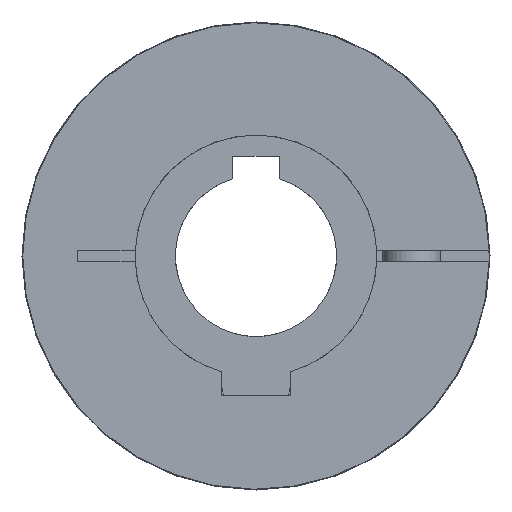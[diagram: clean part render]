
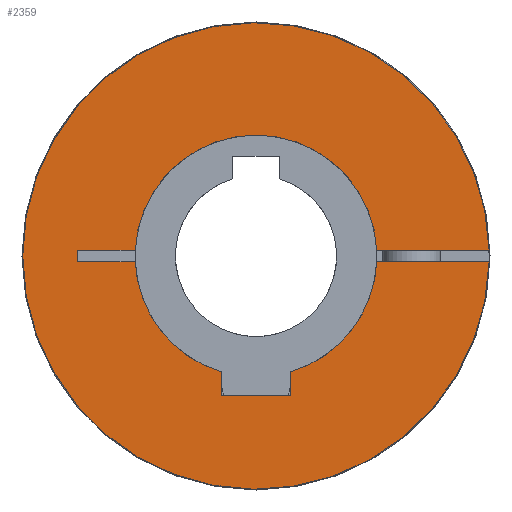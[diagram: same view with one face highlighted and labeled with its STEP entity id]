
A CAD part, left-side view. The second image highlights one B-rep face of the part: STEP entity #2359.
In plain terms, the highlighted planar face has unit normal (-1, 0, 0).
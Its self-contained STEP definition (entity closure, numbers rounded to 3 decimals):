
#233=FACE_OUTER_BOUND('',#375,.T.);
#375=EDGE_LOOP('',(#1918,#1919,#1920,#1921,#1922,#1923,#1924,#1925,#1926,
#1927,#1928,#1929));
#558=CIRCLE('',#2687,21.);
#560=CIRCLE('',#2689,21.);
#561=CIRCLE('',#2691,21.);
#566=CIRCLE('',#2703,40.5);
#730=LINE('',#4200,#866);
#733=LINE('',#4206,#869);
#734=LINE('',#4208,#870);
#736=LINE('',#4212,#872);
#742=LINE('',#4230,#878);
#744=LINE('',#4234,#880);
#745=LINE('',#4235,#881);
#746=LINE('',#4237,#882);
#866=VECTOR('',#3287,1.);
#869=VECTOR('',#3292,1.);
#870=VECTOR('',#3295,1.);
#872=VECTOR('',#3299,1000.);
#878=VECTOR('',#3315,1000.);
#880=VECTOR('',#3319,1000.);
#881=VECTOR('',#3320,1000.);
#882=VECTOR('',#3321,1000.);
#1061=VERTEX_POINT('',#4173);
#1062=VERTEX_POINT('',#4175);
#1065=VERTEX_POINT('',#4181);
#1066=VERTEX_POINT('',#4183);
#1067=VERTEX_POINT('',#4187);
#1068=VERTEX_POINT('',#4188);
#1072=VERTEX_POINT('',#4198);
#1074=VERTEX_POINT('',#4204);
#1075=VERTEX_POINT('',#4211);
#1082=VERTEX_POINT('',#4229);
#1083=VERTEX_POINT('',#4233);
#1084=VERTEX_POINT('',#4236);
#1365=EDGE_CURVE('',#1062,#1061,#558,.T.);
#1369=EDGE_CURVE('',#1066,#1065,#560,.T.);
#1371=EDGE_CURVE('',#1067,#1068,#561,.T.);
#1377=EDGE_CURVE('',#1065,#1072,#730,.T.);
#1380=EDGE_CURVE('',#1072,#1074,#733,.T.);
#1381=EDGE_CURVE('',#1074,#1062,#734,.T.);
#1383=EDGE_CURVE('',#1066,#1075,#736,.T.);
#1392=EDGE_CURVE('',#1082,#1067,#742,.T.);
#1394=EDGE_CURVE('',#1083,#1061,#744,.T.);
#1395=EDGE_CURVE('',#1082,#1083,#745,.T.);
#1396=EDGE_CURVE('',#1068,#1084,#746,.T.);
#1397=EDGE_CURVE('',#1084,#1075,#566,.T.);
#1918=ORIENTED_EDGE('',*,*,#1369,.T.);
#1919=ORIENTED_EDGE('',*,*,#1377,.T.);
#1920=ORIENTED_EDGE('',*,*,#1380,.T.);
#1921=ORIENTED_EDGE('',*,*,#1381,.T.);
#1922=ORIENTED_EDGE('',*,*,#1365,.T.);
#1923=ORIENTED_EDGE('',*,*,#1394,.F.);
#1924=ORIENTED_EDGE('',*,*,#1395,.F.);
#1925=ORIENTED_EDGE('',*,*,#1392,.T.);
#1926=ORIENTED_EDGE('',*,*,#1371,.T.);
#1927=ORIENTED_EDGE('',*,*,#1396,.T.);
#1928=ORIENTED_EDGE('',*,*,#1397,.T.);
#1929=ORIENTED_EDGE('',*,*,#1383,.F.);
#2252=PLANE('',#2702);
#2359=ADVANCED_FACE('',(#233),#2252,.T.);
#2687=AXIS2_PLACEMENT_3D('',#4176,#3266,#3267);
#2689=AXIS2_PLACEMENT_3D('',#4184,#3272,#3273);
#2691=AXIS2_PLACEMENT_3D('',#4189,#3277,#3278);
#2702=AXIS2_PLACEMENT_3D('',#4232,#3317,#3318);
#2703=AXIS2_PLACEMENT_3D('',#4238,#3322,#3323);
#3266=DIRECTION('center_axis',(1.,0.,0.));
#3267=DIRECTION('ref_axis',(0.,0.,-1.));
#3272=DIRECTION('center_axis',(1.,0.,0.));
#3273=DIRECTION('ref_axis',(0.,0.,-1.));
#3277=DIRECTION('center_axis',(1.,0.,0.));
#3278=DIRECTION('ref_axis',(0.,0.,-1.));
#3287=DIRECTION('',(0.,0.,-1.));
#3292=DIRECTION('',(0.,1.,0.));
#3295=DIRECTION('',(0.,0.,1.));
#3299=DIRECTION('',(0.,-1.,0.));
#3315=DIRECTION('',(0.,-1.,0.));
#3317=DIRECTION('center_axis',(-1.,0.,0.));
#3318=DIRECTION('ref_axis',(0.,1.,0.));
#3319=DIRECTION('',(0.,-1.,0.));
#3320=DIRECTION('',(0.,0.,-1.));
#3321=DIRECTION('',(0.,-1.,0.));
#3322=DIRECTION('center_axis',(-1.,0.,0.));
#3323=DIRECTION('ref_axis',(0.,1.,0.));
#4173=CARTESIAN_POINT('',(0.,20.976,-1.));
#4175=CARTESIAN_POINT('',(0.,6.,-20.125));
#4176=CARTESIAN_POINT('Origin',(0.,0.,0.));
#4181=CARTESIAN_POINT('',(0.,-6.,-20.125));
#4183=CARTESIAN_POINT('',(0.,-20.976,-1.));
#4184=CARTESIAN_POINT('Origin',(0.,0.,0.));
#4187=CARTESIAN_POINT('',(0.,20.976,1.));
#4188=CARTESIAN_POINT('',(0.,-20.976,1.));
#4189=CARTESIAN_POINT('Origin',(0.,0.,0.));
#4198=CARTESIAN_POINT('',(0.,-6.,-24.3));
#4200=CARTESIAN_POINT('',(0.,-6.,-9.575));
#4204=CARTESIAN_POINT('',(0.,6.,-24.3));
#4206=CARTESIAN_POINT('',(0.,0.,-24.3));
#4208=CARTESIAN_POINT('',(0.,6.,-9.575));
#4211=CARTESIAN_POINT('',(0.,-40.488,-1.));
#4212=CARTESIAN_POINT('',(0.,31.,-1.));
#4229=CARTESIAN_POINT('',(0.,31.,1.));
#4230=CARTESIAN_POINT('',(0.,31.,1.));
#4232=CARTESIAN_POINT('Origin',(0.,0.,-7.));
#4233=CARTESIAN_POINT('',(0.,31.,-1.));
#4234=CARTESIAN_POINT('',(0.,31.,-1.));
#4235=CARTESIAN_POINT('',(0.,31.,1.));
#4236=CARTESIAN_POINT('',(0.,-40.488,1.));
#4237=CARTESIAN_POINT('',(0.,31.,1.));
#4238=CARTESIAN_POINT('Origin',(0.,0.,0.));
